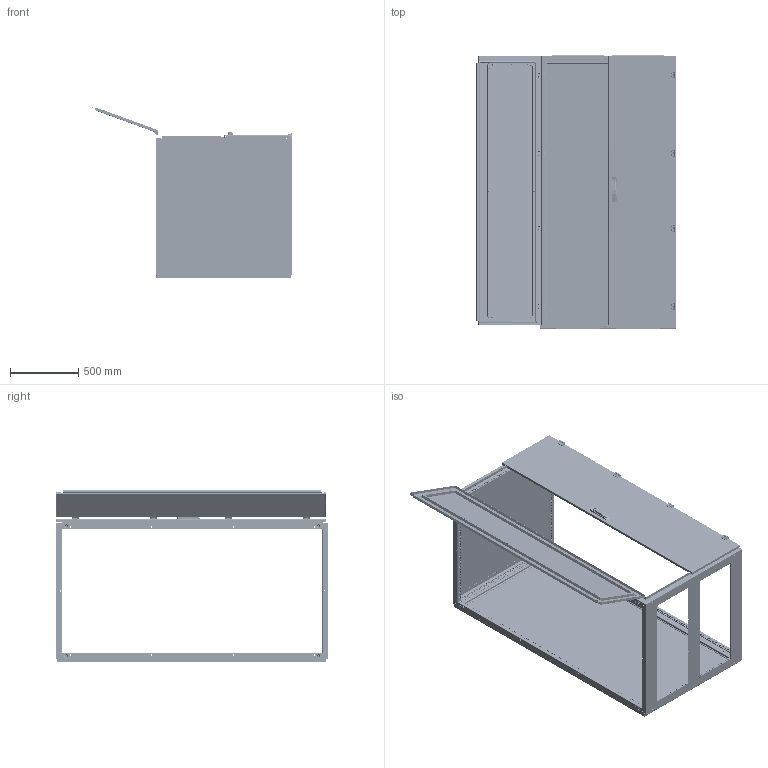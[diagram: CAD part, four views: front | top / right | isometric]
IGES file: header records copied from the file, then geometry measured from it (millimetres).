
Start section: SolidWorks IGES file using analytic representation for surfaces
Global section: file name: U:\14_RD\05_Technical_office\04_Office\Hrdinova\3D modely - IGES\Distri\QA201010.IGS; native system: SolidWorks 2011; preprocessor: SolidWorks 2011; author: adhrja3; date: 170613.091004; units: millimetre
Bounding box: 1468.78 x 2004.5 x 1262.7 mm (x, y, z)
Surface area: 18083022.4 mm2 (no closed solid volume)
Topology: 0 solids, 0 shells, 9523 faces, 161009 edges, 160682 vertices
Faces by surface type: bspline 5018, revolution 4505
